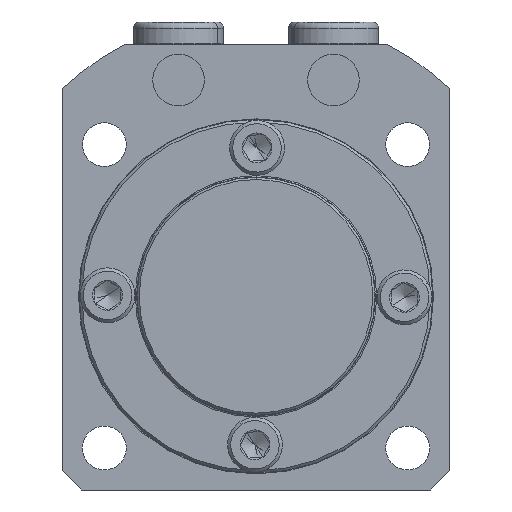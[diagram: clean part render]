
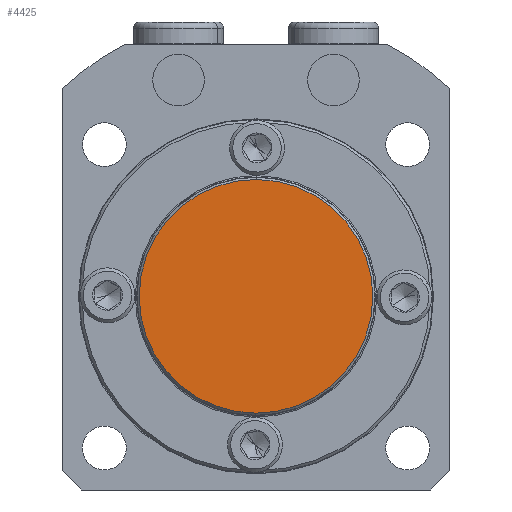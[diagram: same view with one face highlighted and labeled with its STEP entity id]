
A CAD part, front view. The second image highlights one B-rep face of the part: STEP entity #4425.
In plain terms, the highlighted planar face has unit normal (0, -1, 0).
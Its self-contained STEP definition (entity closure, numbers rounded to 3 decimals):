
#273 = AXIS2_PLACEMENT_3D ( 'NONE', #2520, #2532, #2533 ) ;
#347 = CIRCLE ( 'NONE', #410, 18.1 ) ;
#410 = AXIS2_PLACEMENT_3D ( 'NONE', #4945, #4946, #4947 ) ;
#756 = CARTESIAN_POINT ( 'NONE',  ( 0., -10., -18.1 ) ) ;
#2082 = VERTEX_POINT ( 'NONE', #756 ) ;
#2137 = EDGE_CURVE ( 'NONE', #2371, #2082, #4353, .T. ) ;
#2164 = EDGE_CURVE ( 'NONE', #2082, #2371, #347, .T. ) ;
#2364 = EDGE_LOOP ( 'NONE', ( #4511, #4512 ) ) ;
#2371 = VERTEX_POINT ( 'NONE', #5007 ) ;
#2520 = CARTESIAN_POINT ( 'NONE',  ( 0., -10., 0. ) ) ;
#2528 = FACE_OUTER_BOUND ( 'NONE', #2364, .T. ) ;
#2529 = PLANE ( 'NONE',  #273 ) ;
#2532 = DIRECTION ( 'NONE',  ( 0., -1., 0. ) ) ;
#2533 = DIRECTION ( 'NONE',  ( 0., 0., -1. ) ) ;
#4349 = AXIS2_PLACEMENT_3D ( 'NONE', #4860, #4861, #4862 ) ;
#4353 = CIRCLE ( 'NONE', #4349, 18.1 ) ;
#4425 = ADVANCED_FACE ( 'NONE', ( #2528 ), #2529, .T. ) ;
#4511 = ORIENTED_EDGE ( 'NONE', *, *, #2137, .T. ) ;
#4512 = ORIENTED_EDGE ( 'NONE', *, *, #2164, .T. ) ;
#4860 = CARTESIAN_POINT ( 'NONE',  ( 0., -10., 0. ) ) ;
#4861 = DIRECTION ( 'NONE',  ( 0., -1., 0. ) ) ;
#4862 = DIRECTION ( 'NONE',  ( 0., 0., -1. ) ) ;
#4945 = CARTESIAN_POINT ( 'NONE',  ( 0., -10., 0. ) ) ;
#4946 = DIRECTION ( 'NONE',  ( 0., -1., 0. ) ) ;
#4947 = DIRECTION ( 'NONE',  ( 0., 0., -1. ) ) ;
#5007 = CARTESIAN_POINT ( 'NONE',  ( 0., -10., 18.1 ) ) ;
